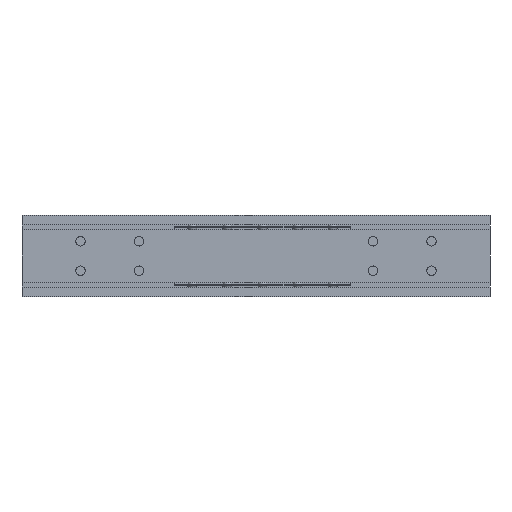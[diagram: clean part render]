
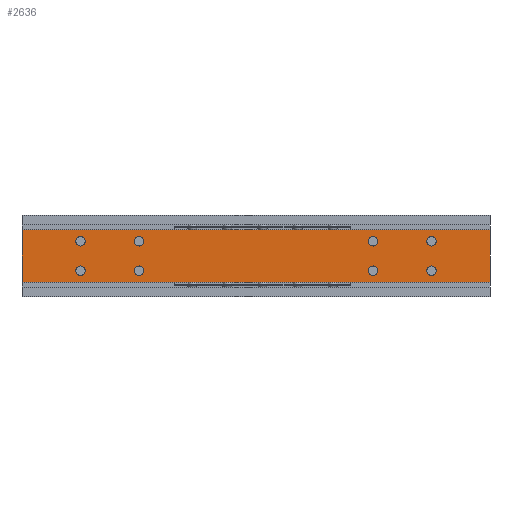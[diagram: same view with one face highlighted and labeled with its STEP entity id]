
A CAD part, left-side view. The second image highlights one B-rep face of the part: STEP entity #2636.
In plain terms, the highlighted planar face has unit normal (-1, 0, 0).
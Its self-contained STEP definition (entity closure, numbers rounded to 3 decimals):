
#90=FACE_BOUND('',#585,.T.);
#91=FACE_BOUND('',#586,.T.);
#92=FACE_BOUND('',#587,.T.);
#93=FACE_BOUND('',#588,.T.);
#94=FACE_BOUND('',#589,.T.);
#95=FACE_BOUND('',#590,.T.);
#96=FACE_BOUND('',#591,.T.);
#97=FACE_BOUND('',#592,.T.);
#247=CIRCLE('',#2814,4.);
#249=CIRCLE('',#2817,4.);
#251=CIRCLE('',#2820,4.);
#253=CIRCLE('',#2823,4.);
#255=CIRCLE('',#2826,4.);
#257=CIRCLE('',#2829,4.);
#259=CIRCLE('',#2832,4.);
#261=CIRCLE('',#2835,4.);
#430=FACE_OUTER_BOUND('',#584,.T.);
#584=EDGE_LOOP('',(#2048,#2049,#2050,#2051));
#585=EDGE_LOOP('',(#2052));
#586=EDGE_LOOP('',(#2053));
#587=EDGE_LOOP('',(#2054));
#588=EDGE_LOOP('',(#2055));
#589=EDGE_LOOP('',(#2056));
#590=EDGE_LOOP('',(#2057));
#591=EDGE_LOOP('',(#2058));
#592=EDGE_LOOP('',(#2059));
#856=LINE('',#4008,#1068);
#857=LINE('',#4010,#1069);
#858=LINE('',#4012,#1070);
#859=LINE('',#4013,#1071);
#1068=VECTOR('',#3248,1.);
#1069=VECTOR('',#3249,1.);
#1070=VECTOR('',#3250,1.);
#1071=VECTOR('',#3251,1.);
#1265=VERTEX_POINT('',#3968);
#1267=VERTEX_POINT('',#3973);
#1269=VERTEX_POINT('',#3978);
#1271=VERTEX_POINT('',#3983);
#1273=VERTEX_POINT('',#3988);
#1275=VERTEX_POINT('',#3993);
#1277=VERTEX_POINT('',#3998);
#1279=VERTEX_POINT('',#4003);
#1280=VERTEX_POINT('',#4006);
#1281=VERTEX_POINT('',#4007);
#1282=VERTEX_POINT('',#4009);
#1283=VERTEX_POINT('',#4011);
#1587=EDGE_CURVE('',#1265,#1265,#247,.T.);
#1589=EDGE_CURVE('',#1267,#1267,#249,.T.);
#1591=EDGE_CURVE('',#1269,#1269,#251,.T.);
#1593=EDGE_CURVE('',#1271,#1271,#253,.T.);
#1595=EDGE_CURVE('',#1273,#1273,#255,.T.);
#1597=EDGE_CURVE('',#1275,#1275,#257,.T.);
#1599=EDGE_CURVE('',#1277,#1277,#259,.T.);
#1601=EDGE_CURVE('',#1279,#1279,#261,.T.);
#1602=EDGE_CURVE('',#1280,#1281,#856,.T.);
#1603=EDGE_CURVE('',#1280,#1282,#857,.T.);
#1604=EDGE_CURVE('',#1283,#1282,#858,.T.);
#1605=EDGE_CURVE('',#1281,#1283,#859,.T.);
#2048=ORIENTED_EDGE('',*,*,#1602,.F.);
#2049=ORIENTED_EDGE('',*,*,#1603,.T.);
#2050=ORIENTED_EDGE('',*,*,#1604,.F.);
#2051=ORIENTED_EDGE('',*,*,#1605,.F.);
#2052=ORIENTED_EDGE('',*,*,#1587,.T.);
#2053=ORIENTED_EDGE('',*,*,#1589,.T.);
#2054=ORIENTED_EDGE('',*,*,#1591,.T.);
#2055=ORIENTED_EDGE('',*,*,#1593,.T.);
#2056=ORIENTED_EDGE('',*,*,#1595,.T.);
#2057=ORIENTED_EDGE('',*,*,#1597,.T.);
#2058=ORIENTED_EDGE('',*,*,#1599,.T.);
#2059=ORIENTED_EDGE('',*,*,#1601,.T.);
#2540=PLANE('',#2836);
#2636=ADVANCED_FACE('',(#430,#90,#91,#92,#93,#94,#95,#96,#97),#2540,.T.);
#2814=AXIS2_PLACEMENT_3D('',#3969,#3202,#3203);
#2817=AXIS2_PLACEMENT_3D('',#3974,#3208,#3209);
#2820=AXIS2_PLACEMENT_3D('',#3979,#3214,#3215);
#2823=AXIS2_PLACEMENT_3D('',#3984,#3220,#3221);
#2826=AXIS2_PLACEMENT_3D('',#3989,#3226,#3227);
#2829=AXIS2_PLACEMENT_3D('',#3994,#3232,#3233);
#2832=AXIS2_PLACEMENT_3D('',#3999,#3238,#3239);
#2835=AXIS2_PLACEMENT_3D('',#4004,#3244,#3245);
#2836=AXIS2_PLACEMENT_3D('',#4005,#3246,#3247);
#3202=DIRECTION('center_axis',(1.,0.,0.));
#3203=DIRECTION('ref_axis',(0.,0.,-1.));
#3208=DIRECTION('center_axis',(1.,0.,0.));
#3209=DIRECTION('ref_axis',(0.,0.,-1.));
#3214=DIRECTION('center_axis',(1.,0.,0.));
#3215=DIRECTION('ref_axis',(0.,0.,-1.));
#3220=DIRECTION('center_axis',(1.,0.,0.));
#3221=DIRECTION('ref_axis',(0.,0.,-1.));
#3226=DIRECTION('center_axis',(1.,0.,0.));
#3227=DIRECTION('ref_axis',(0.,0.,-1.));
#3232=DIRECTION('center_axis',(1.,0.,0.));
#3233=DIRECTION('ref_axis',(0.,0.,-1.));
#3238=DIRECTION('center_axis',(1.,0.,0.));
#3239=DIRECTION('ref_axis',(0.,0.,-1.));
#3244=DIRECTION('center_axis',(1.,0.,0.));
#3245=DIRECTION('ref_axis',(0.,0.,-1.));
#3246=DIRECTION('center_axis',(-1.,0.,0.));
#3247=DIRECTION('ref_axis',(0.,0.,-1.));
#3248=DIRECTION('',(0.,0.,1.));
#3249=DIRECTION('',(0.,-1.,0.));
#3250=DIRECTION('',(0.,0.,-1.));
#3251=DIRECTION('',(0.,-1.,0.));
#3968=CARTESIAN_POINT('',(-3772.784,2004.245,-122.266));
#3969=CARTESIAN_POINT('Origin',(-3772.784,2004.245,-126.266));
#3973=CARTESIAN_POINT('',(-3772.784,1954.245,-122.266));
#3974=CARTESIAN_POINT('Origin',(-3772.784,1954.245,-126.266));
#3978=CARTESIAN_POINT('',(-3772.784,1754.245,-122.266));
#3979=CARTESIAN_POINT('Origin',(-3772.784,1754.245,-126.266));
#3983=CARTESIAN_POINT('',(-3772.784,1704.245,-122.266));
#3984=CARTESIAN_POINT('Origin',(-3772.784,1704.245,-126.266));
#3988=CARTESIAN_POINT('',(-3772.784,1704.245,-147.266));
#3989=CARTESIAN_POINT('Origin',(-3772.784,1704.245,-151.266));
#3993=CARTESIAN_POINT('',(-3772.784,1754.245,-147.266));
#3994=CARTESIAN_POINT('Origin',(-3772.784,1754.245,-151.266));
#3998=CARTESIAN_POINT('',(-3772.784,1954.245,-147.266));
#3999=CARTESIAN_POINT('Origin',(-3772.784,1954.245,-151.266));
#4003=CARTESIAN_POINT('',(-3772.784,2004.245,-147.266));
#4004=CARTESIAN_POINT('Origin',(-3772.784,2004.245,-151.266));
#4005=CARTESIAN_POINT('Origin',(-3772.784,2054.245,-116.266));
#4006=CARTESIAN_POINT('',(-3772.784,2054.245,-161.266));
#4007=CARTESIAN_POINT('',(-3772.784,2054.245,-116.266));
#4008=CARTESIAN_POINT('',(-3772.784,2054.245,-161.266));
#4009=CARTESIAN_POINT('',(-3772.784,1654.245,-161.266));
#4010=CARTESIAN_POINT('',(-3772.784,2054.245,-161.266));
#4011=CARTESIAN_POINT('',(-3772.784,1654.245,-116.266));
#4012=CARTESIAN_POINT('',(-3772.784,1654.245,-161.266));
#4013=CARTESIAN_POINT('',(-3772.784,2054.245,-116.266));
